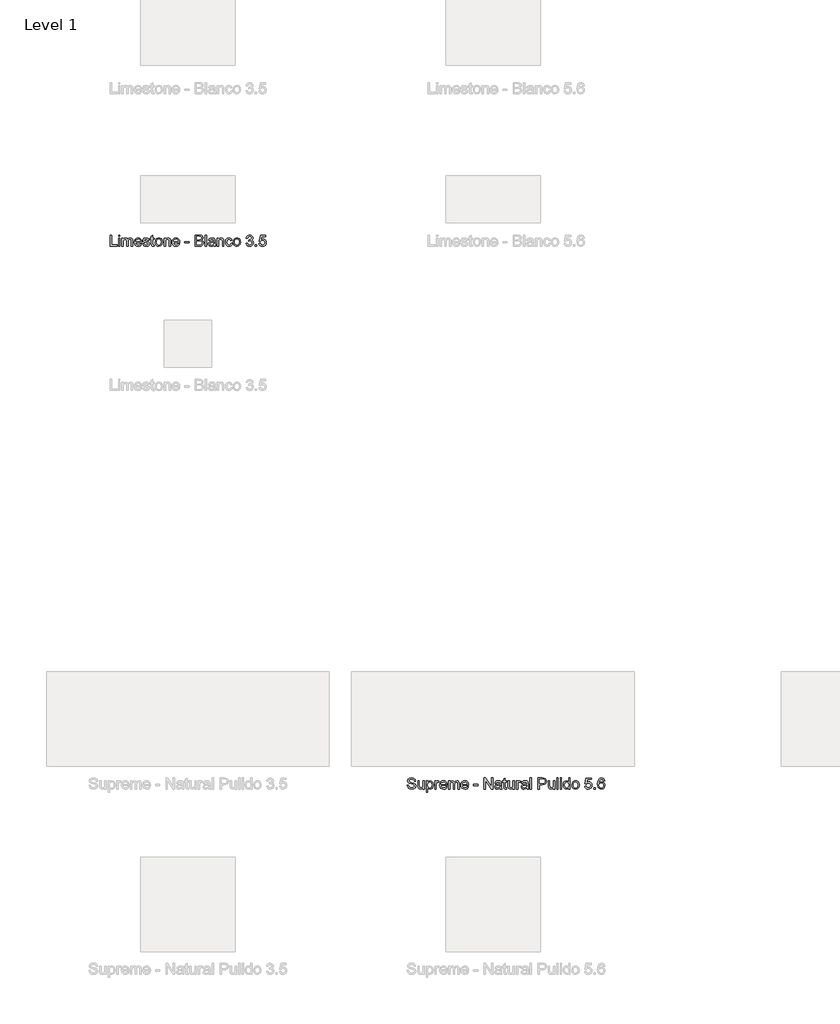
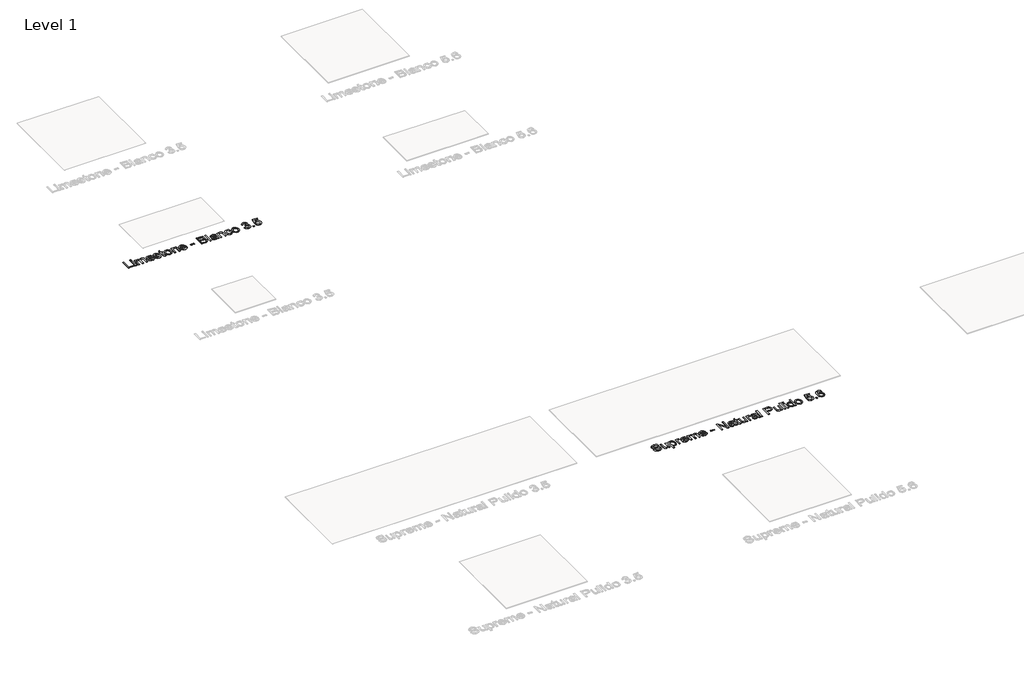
# One storey, part 64 of 80: 2 proxies.
"""IFC4 building model written with IfcOpenShell, lengths in millimetres."""

import ifcopenshell
import ifcopenshell.guid

model = None  # the IFC model being written
_history = None  # IfcOwnerHistory: only IFC2X3 demands one
_inside = {}  # id of a spatial element -> (the spatial element, [elements in it])
_under = {}  # id of a project, library or spatial element -> (it, [spatial elements below it])
_declared = {}  # id of a project -> (the project, [libraries it declares])
_typed = {}  # id of a type object -> (the type object, [elements of that type])
_made_of = {}  # id of a material, layer set ... -> (it, [elements and type objects made of it])


def new_model(schema):
    """Start an empty IFC model of exactly this schema.

    Asked for "IFC4X3", IfcOpenShell would pick the latest addendum, in which some entities
    have other attributes; the version numbers below select the first issue.
    IFC2X3 requires an IfcOwnerHistory on every rooted entity: one is made here for all.
    """
    global model, _history
    if schema == "IFC4X3":
        model = ifcopenshell.file(schema_version=(4, 3, 0, 0))
    else:
        model = ifcopenshell.file(schema=schema)
    _inside.clear()
    _under.clear()
    _declared.clear()
    _typed.clear()
    _made_of.clear()
    _history = None
    if model.schema == "IFC2X3":
        org = make("IfcOrganization", Name="unknown")
        user = make(
            "IfcPersonAndOrganization",
            ThePerson=make("IfcPerson", FamilyName="unknown"),
            TheOrganization=org,
        )
        app = make(
            "IfcApplication",
            ApplicationDeveloper=org,
            Version="unknown",
            ApplicationFullName="unknown",
            ApplicationIdentifier="unknown",
        )
        _history = make(
            "IfcOwnerHistory",
            OwningUser=user,
            OwningApplication=app,
            ChangeAction="ADDED",
            CreationDate=0,
        )
    return model


def make(cls, **values):
    """One entity of the class cls with the attributes given. An attribute that is None is left unset."""
    return model.create_entity(
        cls, **{name: value for name, value in values.items() if value is not None}
    )


def rooted(cls, **values):
    """An entity with a GlobalId (a new one), such as an element, a storey or a relation."""
    return make(cls, GlobalId=ifcopenshell.guid.new(), OwnerHistory=_history, **values)


def si_unit(unit_type, name, prefix=None):
    """IfcSIUnit, for example si_unit("LENGTHUNIT", "METRE", prefix="MILLI")."""
    return make("IfcSIUnit", UnitType=unit_type, Prefix=prefix, Name=name)


def assignment(units):
    """IfcUnitAssignment: the units of a project."""
    return None if units is None else make("IfcUnitAssignment", Units=units)


def point(xyz):
    """IfcCartesianPoint."""
    return None if xyz is None else make("IfcCartesianPoint", Coordinates=xyz)


def direction(xyz):
    """IfcDirection."""
    return None if xyz is None else make("IfcDirection", DirectionRatios=xyz)


def frame(location, z_axis=None, x_axis=None):
    """IfcAxis2Placement3D, a coordinate frame: its origin and axes. An axis left out is left unset."""
    return make(
        "IfcAxis2Placement3D",
        Location=point(location),
        Axis=direction(z_axis),
        RefDirection=direction(x_axis),
    )


def origin():
    """The frame at (0, 0, 0) with its axes left unset."""
    return frame((0.0, 0.0, 0.0))


def origin_with_axes():
    """The frame at (0, 0, 0) with the z axis (0, 0, 1) and the x axis (1, 0, 0) written out."""
    return frame((0.0, 0.0, 0.0), z_axis=(0.0, 0.0, 1.0), x_axis=(1.0, 0.0, 0.0))


def place(relative_to, where):
    """IfcLocalPlacement: puts the frame where relative to a parent placement (None: the world)."""
    return make(
        "IfcLocalPlacement", PlacementRelTo=relative_to, RelativePlacement=where
    )


def context(
    kind, dimensions, precision=None, world=None, true_north=None, identifier=None
):
    """IfcGeometricRepresentationContext, for example the 3D "Model" context."""
    return make(
        "IfcGeometricRepresentationContext",
        ContextIdentifier=identifier,
        ContextType=kind,
        CoordinateSpaceDimension=dimensions,
        Precision=precision,
        WorldCoordinateSystem=world,
        TrueNorth=true_north,
    )


def project(units=None, contexts=None):
    """IfcProject with its units and contexts."""
    return rooted(
        "IfcProject",
        Name="project",
        RepresentationContexts=contexts,
        UnitsInContext=assignment(units),
    )


def spatial(cls, under=None, at=None, **own):
    """A site, building, storey or space (cls), placed at a placement, below another one or the project."""
    s = rooted(cls, ObjectPlacement=at, **own)
    if under is not None:
        _under.setdefault(under.id(), (under, []))[1].append(s)
    return s


def polyline(points):
    """IfcPolyline through the points."""
    return make("IfcPolyline", Points=[point(p) for p in points])


def outline(outer, holes=None, kind="AREA"):
    """IfcArbitraryClosedProfileDef: a profile drawn as a closed curve; with holes, ...WithVoids."""
    if holes is None:
        return make("IfcArbitraryClosedProfileDef", ProfileType=kind, OuterCurve=outer)
    return make(
        "IfcArbitraryProfileDefWithVoids",
        ProfileType=kind,
        OuterCurve=outer,
        InnerCurves=holes,
    )


def extrude(swept, where, along, depth):
    """IfcExtrudedAreaSolid: the profile swept, set in the frame where, extruded along a direction by depth."""
    return make(
        "IfcExtrudedAreaSolid",
        SweptArea=swept,
        Position=where,
        ExtrudedDirection=direction(along),
        Depth=depth,
    )


def shape(context_of_items, identifier, shape_type, items):
    """IfcShapeRepresentation: the items that make up one representation, for example the "Body"."""
    return make(
        "IfcShapeRepresentation",
        ContextOfItems=context_of_items,
        RepresentationIdentifier=identifier,
        RepresentationType=shape_type,
        Items=items,
    )


def made_of(thing, what):
    """Note that an element or type object is made of a material, layer set ...; save() writes the relation."""
    if what is not None:
        _made_of.setdefault(what.id(), (what, []))[1].append(thing)
    return thing


def element(
    cls,
    number,
    at=None,
    inside=None,
    cuts=None,
    type_object=None,
    material=None,
    context=None,
    identifier="Body",
    shape_type=None,
    held_by="IfcProductDefinitionShape",
    body=None,
    shapes=None,
    **own,
):
    """One element of the class cls, such as IfcWall. Its Tag is "e" and its number.

    at: its placement. inside: the storey or other place that contains it. cuts: it is an
    opening in that element (IfcRelVoidsElement). A single representation is given by context,
    identifier, shape_type and body (its items); several are given by shapes. held_by: the class
    of the entity that holds the representations. save() writes the other relations.
    """
    e = rooted(cls, Tag="e%d" % number, ObjectPlacement=at, **own)
    if body is not None:
        shapes = [shape(context, identifier, shape_type, body)]
    if shapes is not None:
        e.Representation = make(held_by, Representations=shapes)
    if inside is not None:
        _inside.setdefault(inside.id(), (inside, []))[1].append(e)
    if cuts is not None:
        rooted(
            "IfcRelVoidsElement", RelatingBuildingElement=cuts, RelatedOpeningElement=e
        )
    if type_object is not None:
        _typed.setdefault(type_object.id(), (type_object, []))[1].append(e)
    return made_of(e, material)


def aggregate(whole, parts):
    """IfcRelAggregates: a whole, such as a stair, and the parts it consists of."""
    return rooted("IfcRelAggregates", RelatingObject=whole, RelatedObjects=parts)


def save(model, path):
    """Write the relations noted so far, then the file.

    IfcRelAggregates (storeys below a building ...), IfcRelContainedInSpatialStructure (elements
    in a storey), IfcRelDefinesByType, IfcRelAssociatesMaterial and IfcRelDeclares: one each for
    every whole, place, type object, material and project.
    """
    for whole, parts in _under.values():
        aggregate(whole, parts)
    for where, things in _inside.values():
        rooted(
            "IfcRelContainedInSpatialStructure",
            RelatedElements=things,
            RelatingStructure=where,
        )
    for kind, things in _typed.values():
        rooted("IfcRelDefinesByType", RelatedObjects=things, RelatingType=kind)
    for what, things in _made_of.values():
        rooted("IfcRelAssociatesMaterial", RelatedObjects=things, RelatingMaterial=what)
    for by, libraries in _declared.values():
        rooted("IfcRelDeclares", RelatingContext=by, RelatedDefinitions=libraries)
    model.write(path)


model = new_model("IFC4")

# Units and contexts
model_context = context("Model", 3, world=origin())
ifc_project = project(units=[si_unit("LENGTHUNIT", "METRE", prefix="MILLI")], contexts=[model_context])

# Site, building, storey
site = spatial("IfcSite", under=ifc_project)
building = spatial("IfcBuilding", under=site)
storey = spatial("IfcBuildingStorey", under=building, Name="Level 1", Elevation=0.0)

# Proxies
placement = place(None, origin())
element("IfcBuildingElementProxy", 1, Name="24\" Arial", ObjectType="24\" Arial", at=placement, inside=storey, context=model_context, shape_type="SweptSolid", body=[
    extrude(outline(polyline([(7862.4623536, 1389.3439467), (7877.2315844, 1389.3439467), (7881.9911998, 1374.5602928), (7893.6161998, 1365.214139), (7911.3277383, 1361.651639), (7926.7604306, 1364.3487544), (7936.7267767, 1371.7622159), (7940.0008152, 1381.6708697), (7937.5488921, 1390.8872159), (7927.5104306, 1397.5939467), (7906.0056229, 1403.2333697), (7882.8565844, 1410.5170236), (7870.2940844, 1421.5074082), (7866.1546613, 1436.1901005), (7871.2748536, 1452.9064467), (7886.2315844, 1464.7045236), (7908.1258152, 1468.728562), (7931.4911998, 1464.5170236), (7947.0681229, 1452.1420236), (7952.9238921, 1433.651639), (7938.1546613, 1433.651639), (7935.4431229, 1442.464139), (7929.7892767, 1448.8247159), (7920.9551421, 1452.6756774), (7908.7027383, 1453.9593313), (7896.1618729, 1452.6901005), (7887.5585075, 1448.8824082), (7882.5825459, 1443.2790428), (7880.9238921, 1436.6227928), (7885.6258152, 1426.3824082), (7909.7411998, 1418.1324082), (7935.8758152, 1410.7189467), (7950.1690844, 1398.7477928), (7954.7700459, 1382.0458697), (7949.4767767, 1364.3776005), (7934.2460075, 1351.4833697), (7911.9046613, 1346.8824082), (7885.5248536, 1351.8439467), (7876.0380748, 1358.0602928), (7868.8373536, 1366.7862544), (7862.4623536, 1389.3439467)])), origin_with_axes(), (0.0, 0.0, 1.0), 2.0),
    extrude(outline(polyline([(8030.4623536, 1348.728562), (8030.4623536, 1363.6420236), (8018.8950459, 1351.072312), (8003.8085075, 1346.8824082), (7989.9190844, 1349.8247159), (7980.3421613, 1357.2093313), (7975.9431229, 1368.0843313), (7975.0777383, 1381.8151005), (7975.0777383, 1435.4977928), (7989.846969, 1435.4977928), (7989.846969, 1388.7670236), (7990.7411998, 1373.7093313), (7996.5825459, 1364.8679851), (8007.5873536, 1361.651639), (8019.9190844, 1364.9401005), (8028.0681229, 1373.8968313), (8030.4623536, 1390.353562), (8030.4623536, 1435.4977928), (8045.2315844, 1435.4977928), (8045.2315844, 1348.728562), (8030.4623536, 1348.728562)])), origin_with_axes(), (0.0, 0.0, 1.0), 2.0),
    extrude(outline(polyline([(8065.5392767, 1315.4977928), (8065.5392767, 1435.4977928), (8080.3085075, 1435.4977928), (8080.3085075, 1421.0170236), (8090.5200459, 1433.2622159), (8104.3085075, 1437.3439467), (8123.0296613, 1431.6324082), (8135.2604306, 1415.5362544), (8139.3854306, 1392.776639), (8134.7267767, 1368.8487544), (8129.0152383, 1359.4593313), (8121.1979306, 1352.5506774), (8102.5200459, 1346.8824082), (8089.6690844, 1350.6756774), (8080.3085075, 1360.2670236), (8080.3085075, 1315.4977928), (8065.5392767, 1315.4977928)]), holes=[polyline([(8080.3085075, 1391.4208697), (8081.9058633, 1378.1804851), (8086.6979306, 1368.9208697), (8093.768844, 1363.4689467), (8102.2027383, 1361.651639), (8110.7736517, 1363.5338505), (8118.0248536, 1369.1804851), (8122.9683633, 1378.7790428), (8124.6161998, 1392.5170236), (8123.0080267, 1405.6852928), (8118.1835075, 1415.0747159), (8111.1234113, 1420.6997159), (8102.8085075, 1422.5747159), (8094.4611517, 1420.5807255), (8087.1306229, 1414.5987544), (8082.0140363, 1404.8163024), (8080.3085075, 1391.4208697)])]), origin_with_axes(), (0.0, 0.0, 1.0), 2.0),
    extrude(outline(polyline([(8156.0008152, 1348.728562), (8156.0008152, 1435.4977928), (8168.9238921, 1435.4977928), (8168.9238921, 1422.6612544), (8178.096969, 1434.4881774), (8187.3277383, 1437.3439467), (8202.1546613, 1432.7862544), (8197.221969, 1419.5458697), (8186.8373536, 1422.5747159), (8178.4863921, 1419.6612544), (8173.1642767, 1411.5843313), (8170.7700459, 1394.3343313), (8170.7700459, 1348.728562), (8156.0008152, 1348.728562)])), origin_with_axes(), (0.0, 0.0, 1.0), 2.0),
    extrude(outline(polyline([(8272.1354306, 1374.5747159), (8286.6161998, 1372.728562), (8281.3986517, 1361.8175044), (8273.0729306, 1353.6612544), (8261.8265363, 1348.5771197), (8247.846969, 1346.8824082), (8230.5176421, 1349.806687), (8217.1835075, 1358.5795236), (8208.6811036, 1372.6312063), (8205.846969, 1391.3920236), (8208.7099498, 1410.7838505), (8217.2988921, 1425.2862544), (8230.4527383, 1434.3295236), (8247.0104306, 1437.3439467), (8263.0524979, 1434.3367351), (8275.8710075, 1425.3151005), (8284.2760556, 1410.8415428), (8287.0777383, 1391.478562), (8286.9911998, 1387.4977928), (8220.6161998, 1387.4977928), (8223.1726902, 1376.4425044), (8229.1113921, 1368.3151005), (8237.6823056, 1363.3175044), (8248.1354306, 1361.651639), (8262.6161998, 1364.7381774), (8272.1354306, 1374.5747159)]), holes=[polyline([(8220.6161998, 1402.2670236), (8272.3085075, 1402.2670236), (8266.3950459, 1415.651639), (8257.784469, 1420.8439467), (8246.9527383, 1422.5747159), (8228.7652383, 1417.0506774), (8223.0428825, 1410.5927447), (8220.6161998, 1402.2670236)])]), origin_with_axes(), (0.0, 0.0, 1.0), 2.0),
    extrude(outline(polyline([(8301.846969, 1348.728562), (8301.846969, 1435.4977928), (8316.6161998, 1435.4977928), (8316.6161998, 1421.2189467), (8326.7700459, 1432.916062), (8341.221969, 1437.3439467), (8356.0200459, 1432.8295236), (8364.1546613, 1420.1804851), (8375.6786998, 1433.0530813), (8390.2315844, 1437.3439467), (8401.3337479, 1435.5590909), (8409.5440844, 1430.2045236), (8414.6174017, 1421.136014), (8416.3085075, 1408.2093313), (8416.3085075, 1348.728562), (8401.5392767, 1348.728562), (8401.5392767, 1401.8631774), (8400.1690844, 1414.1949082), (8395.2075459, 1420.2670236), (8386.7700459, 1422.5747159), (8378.768844, 1421.0963505), (8372.2460075, 1416.6612544), (8367.9082671, 1408.9665428), (8366.4623536, 1397.7093313), (8366.4623536, 1348.728562), (8351.6931229, 1348.728562), (8351.6931229, 1403.5074082), (8348.2748536, 1417.8151005), (8337.0681229, 1422.5747159), (8326.1354306, 1419.401639), (8318.8661998, 1410.1131774), (8316.6161998, 1392.4881774), (8316.6161998, 1348.728562), (8301.846969, 1348.728562)])), origin_with_axes(), (0.0, 0.0, 1.0), 2.0),
    extrude(outline(polyline([(8499.2123536, 1374.5747159), (8513.6931229, 1372.728562), (8508.4755748, 1361.8175044), (8500.1498536, 1353.6612544), (8488.9034594, 1348.5771197), (8474.9238921, 1346.8824082), (8457.5945652, 1349.806687), (8444.2604306, 1358.5795236), (8435.7580267, 1372.6312063), (8432.9238921, 1391.3920236), (8435.7868729, 1410.7838505), (8444.3758152, 1425.2862544), (8457.5296613, 1434.3295236), (8474.0873536, 1437.3439467), (8490.1294209, 1434.3367351), (8502.9479306, 1425.3151005), (8511.3529786, 1410.8415428), (8514.1546613, 1391.478562), (8514.0681229, 1387.4977928), (8447.6931229, 1387.4977928), (8450.2496133, 1376.4425044), (8456.1883152, 1368.3151005), (8464.7592286, 1363.3175044), (8475.2123536, 1361.651639), (8489.6931229, 1364.7381774), (8499.2123536, 1374.5747159)]), holes=[polyline([(8447.6931229, 1402.2670236), (8499.3854306, 1402.2670236), (8493.471969, 1415.651639), (8484.8613921, 1420.8439467), (8474.0296613, 1422.5747159), (8455.8421613, 1417.0506774), (8450.1198056, 1410.5927447), (8447.6931229, 1402.2670236)])]), origin_with_axes(), (0.0, 0.0, 1.0), 2.0),
    extrude(outline(polyline([(8567.6931229, 1383.8054851), (8567.6931229, 1398.5747159), (8613.846969, 1398.5747159), (8613.846969, 1383.8054851), (8567.6931229, 1383.8054851)])), origin_with_axes(), (0.0, 0.0, 1.0), 2.0),
    extrude(outline(polyline([(8678.4623536, 1348.728562), (8678.4623536, 1466.8824082), (8694.2700459, 1466.8824082), (8756.0008152, 1373.276639), (8756.0008152, 1466.8824082), (8770.7700459, 1466.8824082), (8770.7700459, 1348.728562), (8754.9623536, 1348.728562), (8693.2315844, 1442.3631774), (8693.2315844, 1348.728562), (8678.4623536, 1348.728562)])), origin_with_axes(), (0.0, 0.0, 1.0), 2.0),
    extrude(outline(polyline([(8850.1546613, 1359.8054851), (8835.8325459, 1349.7958697), (8820.0104306, 1346.8824082), (8807.6678825, 1348.634812), (8798.5633152, 1353.8920236), (8792.9491325, 1361.8751967), (8791.0777383, 1371.8054851), (8793.9046613, 1383.4881774), (8801.3325459, 1391.9689467), (8811.6738921, 1396.8151005), (8824.4527383, 1399.0362544), (8850.0681229, 1404.1131774), (8850.1546613, 1407.401639), (8846.0873536, 1418.3054851), (8829.7604306, 1422.5747159), (8814.8181229, 1419.7333697), (8807.6931229, 1409.651639), (8792.9238921, 1411.4977928), (8799.3133152, 1425.9208697), (8812.1786998, 1434.3727928), (8831.6642767, 1437.3439467), (8849.5633152, 1434.7189467), (8859.6738921, 1428.1276005), (8864.2027383, 1418.103562), (8864.9238921, 1405.1804851), (8864.9238921, 1386.8054851), (8865.6738921, 1361.1468313), (8868.6161998, 1348.728562), (8853.846969, 1348.728562), (8850.1546613, 1359.8054851)]), holes=[polyline([(8850.1546613, 1389.3439467), (8826.3277383, 1384.8151005), (8813.6210075, 1382.4208697), (8807.8661998, 1378.526639), (8805.846969, 1372.8439467), (8810.2460075, 1364.853562), (8823.1546613, 1361.651639), (8838.096969, 1365.1852928), (8847.7315844, 1373.7381774), (8850.0681229, 1385.1612544), (8850.1546613, 1389.3439467)])]), origin_with_axes(), (0.0, 0.0, 1.0), 2.0),
    extrude(outline(polyline([(8916.6161998, 1361.0458697), (8918.4623536, 1348.2958697), (8907.4142767, 1346.8824082), (8895.0392767, 1349.3343313), (8888.8661998, 1355.7670236), (8887.0777383, 1372.526639), (8887.0777383, 1420.728562), (8876.0008152, 1420.728562), (8876.0008152, 1435.4977928), (8887.0777383, 1435.4977928), (8887.0777383, 1456.5843313), (8901.846969, 1465.2670236), (8901.846969, 1435.4977928), (8916.6161998, 1435.4977928), (8916.6161998, 1420.728562), (8901.846969, 1420.728562), (8901.846969, 1372.9593313), (8902.6258152, 1365.3439467), (8905.1498536, 1362.6468313), (8910.1835075, 1361.651639), (8916.6161998, 1361.0458697)])), origin_with_axes(), (0.0, 0.0, 1.0), 2.0),
    extrude(outline(polyline([(8986.7700459, 1348.728562), (8986.7700459, 1363.6420236), (8975.2027383, 1351.072312), (8960.1161998, 1346.8824082), (8946.2267767, 1349.8247159), (8936.6498536, 1357.2093313), (8932.2508152, 1368.0843313), (8931.3854306, 1381.8151005), (8931.3854306, 1435.4977928), (8946.1546613, 1435.4977928), (8946.1546613, 1388.7670236), (8947.0488921, 1373.7093313), (8952.8902383, 1364.8679851), (8963.8950459, 1361.651639), (8976.2267767, 1364.9401005), (8984.3758152, 1373.8968313), (8986.7700459, 1390.353562), (8986.7700459, 1435.4977928), (9001.5392767, 1435.4977928), (9001.5392767, 1348.728562), (8986.7700459, 1348.728562)])), origin_with_axes(), (0.0, 0.0, 1.0), 2.0),
    extrude(outline(polyline([(9021.846969, 1348.728562), (9021.846969, 1435.4977928), (9034.7700459, 1435.4977928), (9034.7700459, 1422.6612544), (9043.9431229, 1434.4881774), (9053.1738921, 1437.3439467), (9068.0008152, 1432.7862544), (9063.0681229, 1419.5458697), (9052.6835075, 1422.5747159), (9044.3325459, 1419.6612544), (9039.0104306, 1411.5843313), (9036.6161998, 1394.3343313), (9036.6161998, 1348.728562), (9021.846969, 1348.728562)])), origin_with_axes(), (0.0, 0.0, 1.0), 2.0),
    extrude(outline(polyline([(9132.6161998, 1359.8054851), (9118.2940844, 1349.7958697), (9102.471969, 1346.8824082), (9090.1294209, 1348.634812), (9081.0248536, 1353.8920236), (9075.4106709, 1361.8751967), (9073.5392767, 1371.8054851), (9076.3661998, 1383.4881774), (9083.7940844, 1391.9689467), (9094.1354306, 1396.8151005), (9106.9142767, 1399.0362544), (9132.5296613, 1404.1131774), (9132.6161998, 1407.401639), (9128.5488921, 1418.3054851), (9112.221969, 1422.5747159), (9097.2796613, 1419.7333697), (9090.1546613, 1409.651639), (9075.3854306, 1411.4977928), (9081.7748536, 1425.9208697), (9094.6402383, 1434.3727928), (9114.1258152, 1437.3439467), (9132.0248536, 1434.7189467), (9142.1354306, 1428.1276005), (9146.6642767, 1418.103562), (9147.3854306, 1405.1804851), (9147.3854306, 1386.8054851), (9148.1354306, 1361.1468313), (9151.0777383, 1348.728562), (9136.3085075, 1348.728562), (9132.6161998, 1359.8054851)]), holes=[polyline([(9132.6161998, 1389.3439467), (9108.7892767, 1384.8151005), (9096.0825459, 1382.4208697), (9090.3277383, 1378.526639), (9088.3085075, 1372.8439467), (9092.7075459, 1364.853562), (9105.6161998, 1361.651639), (9120.5585075, 1365.1852928), (9130.1931229, 1373.7381774), (9132.5296613, 1385.1612544), (9132.6161998, 1389.3439467)])]), origin_with_axes(), (0.0, 0.0, 1.0), 2.0),
    extrude(outline(polyline([(9167.6931229, 1348.728562), (9167.6931229, 1466.8824082), (9182.4623536, 1466.8824082), (9182.4623536, 1348.728562), (9167.6931229, 1348.728562)])), origin_with_axes(), (0.0, 0.0, 1.0), 2.0),
    extrude(outline(polyline([(9252.6161998, 1348.728562), (9252.6161998, 1466.8824082), (9296.4046613, 1466.8824082), (9314.0585075, 1465.7574082), (9328.409469, 1460.2333697), (9337.7123536, 1448.8102928), (9341.2315844, 1432.6997159), (9338.8553825, 1418.7742351), (9331.7267767, 1407.1708697), (9318.3962479, 1399.339139), (9297.4142767, 1396.728562), (9267.3854306, 1396.728562), (9267.3854306, 1348.728562), (9252.6161998, 1348.728562)]), holes=[polyline([(9267.3854306, 1411.4977928), (9298.2796613, 1411.4977928), (9311.3758152, 1412.853562), (9320.0296613, 1416.9208697), (9324.8541806, 1423.447312), (9326.4623536, 1432.1804851), (9322.6690844, 1444.4112544), (9312.7027383, 1451.103562), (9297.9335075, 1452.1131774), (9267.3854306, 1452.1131774), (9267.3854306, 1411.4977928)])]), origin_with_axes(), (0.0, 0.0, 1.0), 2.0),
    extrude(outline(polyline([(9415.0777383, 1348.728562), (9415.0777383, 1363.6420236), (9403.5104306, 1351.072312), (9388.4238921, 1346.8824082), (9374.534469, 1349.8247159), (9364.9575459, 1357.2093313), (9360.5585075, 1368.0843313), (9359.6931229, 1381.8151005), (9359.6931229, 1435.4977928), (9374.4623536, 1435.4977928), (9374.4623536, 1388.7670236), (9375.3565844, 1373.7093313), (9381.1979306, 1364.8679851), (9392.2027383, 1361.651639), (9404.534469, 1364.9401005), (9412.6835075, 1373.8968313), (9415.0777383, 1390.353562), (9415.0777383, 1435.4977928), (9429.846969, 1435.4977928), (9429.846969, 1348.728562), (9415.0777383, 1348.728562)])), origin_with_axes(), (0.0, 0.0, 1.0), 2.0),
    extrude(outline(polyline([(9450.1546613, 1348.728562), (9450.1546613, 1466.8824082), (9464.9238921, 1466.8824082), (9464.9238921, 1348.728562), (9450.1546613, 1348.728562)])), origin_with_axes(), (0.0, 0.0, 1.0), 2.0),
    extrude(outline(polyline([(9487.0777383, 1452.1131774), (9487.0777383, 1466.8824082), (9501.846969, 1466.8824082), (9501.846969, 1452.1131774), (9487.0777383, 1452.1131774)])), origin_with_axes(), (0.0, 0.0, 1.0), 2.0),
    extrude(outline(polyline([(9487.0777383, 1348.728562), (9487.0777383, 1435.4977928), (9501.846969, 1435.4977928), (9501.846969, 1348.728562), (9487.0777383, 1348.728562)])), origin_with_axes(), (0.0, 0.0, 1.0), 2.0),
    extrude(outline(polyline([(9577.5392767, 1348.728562), (9577.5392767, 1362.6612544), (9567.7676421, 1350.8271197), (9554.2604306, 1346.8824082), (9535.971969, 1352.5939467), (9523.0488921, 1368.5314467), (9518.4623536, 1392.026639), (9522.6883152, 1415.5362544), (9527.9671613, 1424.8607736), (9535.3517767, 1431.7189467), (9554.2027383, 1437.3439467), (9567.8181229, 1433.3199082), (9577.5392767, 1422.8631774), (9577.5392767, 1466.8824082), (9592.3085075, 1466.8824082), (9592.3085075, 1348.728562), (9577.5392767, 1348.728562)]), holes=[polyline([(9533.2315844, 1392.0843313), (9534.8974498, 1378.7249563), (9539.8950459, 1369.2237544), (9547.1570652, 1363.5446678), (9555.6161998, 1361.651639), (9564.0717286, 1363.4581294), (9571.1498536, 1368.8776005), (9575.9419209, 1378.011014), (9577.5392767, 1390.9593313), (9575.9130748, 1405.1155813), (9571.034469, 1414.9304851), (9563.7760556, 1420.6636582), (9555.0104306, 1422.5747159), (9546.4647575, 1420.7393794), (9539.4623536, 1415.2333697), (9534.7892767, 1405.775437), (9533.2315844, 1392.0843313)])]), origin_with_axes(), (0.0, 0.0, 1.0), 2.0),
    extrude(outline(polyline([(9610.7700459, 1392.1131774), (9613.9647575, 1413.0338505), (9623.5488921, 1427.7381774), (9635.3902383, 1434.9425044), (9649.5681229, 1437.3439467), (9665.0837479, 1434.4196678), (9677.4767767, 1425.6468313), (9685.6005748, 1411.7177447), (9688.3085075, 1393.3247159), (9683.5200459, 1367.0458697), (9669.5729306, 1352.1756774), (9649.5681229, 1346.8824082), (9633.8649979, 1349.7958697), (9621.4863921, 1358.5362544), (9613.4491325, 1372.7574082), (9610.7700459, 1392.1131774)]), holes=[polyline([(9625.5392767, 1392.1420236), (9627.2484113, 1378.775437), (9632.3758152, 1369.2526005), (9640.0921613, 1363.5518794), (9649.5681229, 1361.651639), (9659.0008152, 1363.5626967), (9666.7027383, 1369.2958697), (9671.8301421, 1378.9449082), (9673.5392767, 1392.603562), (9671.8193248, 1405.5807255), (9666.659469, 1414.9737544), (9658.9467286, 1420.6744755), (9649.5681229, 1422.5747159), (9640.0921613, 1420.681687), (9632.3758152, 1415.0026005), (9627.2484113, 1405.5013986), (9625.5392767, 1392.1420236)])]), origin_with_axes(), (0.0, 0.0, 1.0), 2.0),
    extrude(outline(polyline([(9747.3854306, 1380.1131774), (9762.1546613, 1381.9593313), (9769.596969, 1366.7429851), (9785.0296613, 1361.651639), (9795.6161998, 1363.4220717), (9803.5488921, 1368.7333697), (9808.503219, 1376.9725524), (9810.1546613, 1387.526639), (9808.6077863, 1397.464139), (9803.9671613, 1405.0651005), (9796.1967286, 1409.8896197), (9785.2604306, 1411.4977928), (9772.2940844, 1408.9304851), (9764.0008152, 1402.2670236), (9749.2315844, 1404.1131774), (9762.1546613, 1465.0362544), (9819.3854306, 1465.0362544), (9819.3854306, 1450.2670236), (9774.096969, 1450.2670236), (9767.7796613, 1417.728562), (9778.3301421, 1424.1324082), (9789.3854306, 1426.2670236), (9803.1847094, 1423.620389), (9814.6402383, 1415.6804851), (9822.3529786, 1403.5795236), (9824.9238921, 1388.4497159), (9822.6089883, 1373.6804851), (9815.6642767, 1361.0458697), (9802.3661998, 1350.4232736), (9784.971969, 1346.8824082), (9770.4659594, 1349.1576486), (9758.909469, 1355.9833697), (9750.987594, 1366.5663024), (9747.3854306, 1380.1131774)])), origin_with_axes(), (0.0, 0.0, 1.0), 2.0),
    extrude(outline(polyline([(9845.2315844, 1348.728562), (9845.2315844, 1363.4977928), (9860.0008152, 1363.4977928), (9860.0008152, 1348.728562), (9845.2315844, 1348.728562)])), origin_with_axes(), (0.0, 0.0, 1.0), 2.0),
    extrude(outline(polyline([(9959.6931229, 1435.4977928), (9944.9238921, 1433.651639), (9939.3277383, 1445.9689467), (9932.628219, 1450.5771197), (9924.5296613, 1452.1131774), (9911.2027383, 1448.5362544), (9901.1210075, 1435.1083697), (9896.9238921, 1408.7862544), (9909.9479306, 1420.5699082), (9926.0873536, 1424.4208697), (9939.7315844, 1421.7886582), (9951.1835075, 1413.8920236), (9958.9503344, 1401.8271197), (9961.5392767, 1386.6901005), (9956.6642767, 1366.3102928), (9943.2508152, 1351.8872159), (9923.8950459, 1346.8824082), (9907.1390363, 1350.1997159), (9893.7940844, 1360.151639), (9885.0645171, 1377.7189467), (9882.1546613, 1403.8824082), (9885.3854306, 1433.2982736), (9895.0777383, 1453.4112544), (9908.3109113, 1463.5146197), (9925.4527383, 1466.8824082), (9938.4118729, 1464.7982736), (9948.7892767, 1458.5458697), (9956.0585075, 1448.6155813), (9959.6931229, 1435.4977928)]), holes=[polyline([(9896.9238921, 1386.9208697), (9900.3421613, 1374.1276005), (9909.4286998, 1364.839139), (9922.7411998, 1361.651639), (9932.487594, 1363.3030813), (9940.1498536, 1368.2574082), (9945.1149979, 1376.0458697), (9946.7700459, 1386.1997159), (9945.1366325, 1395.9461101), (9940.2363921, 1403.3776005), (9932.4443248, 1408.0831294), (9922.1354306, 1409.651639), (9912.4034594, 1408.0831294), (9904.2652383, 1403.3776005), (9898.7592286, 1396.1263986), (9896.9238921, 1386.9208697)])]), origin_with_axes(), (0.0, 0.0, 1.0), 2.0),
])
element("IfcBuildingElementProxy", 2, Name="24\" Arial", ObjectType="24\" Arial", at=placement, inside=storey, context=model_context, shape_type="SweptSolid", body=[
    extrude(outline(polyline([(4709.2315844, 7106.868207), (4709.2315844, 7225.0220532), (4724.0008152, 7225.0220532), (4724.0008152, 7121.6374378), (4783.0777383, 7121.6374378), (4783.0777383, 7106.868207), (4709.2315844, 7106.868207)])), origin_with_axes(), (0.0, 0.0, 1.0), 2.0),
    extrude(outline(polyline([(4797.846969, 7210.2528224), (4797.846969, 7225.0220532), (4812.6161998, 7225.0220532), (4812.6161998, 7210.2528224), (4797.846969, 7210.2528224)])), origin_with_axes(), (0.0, 0.0, 1.0), 2.0),
    extrude(outline(polyline([(4797.846969, 7106.868207), (4797.846969, 7193.6374378), (4812.6161998, 7193.6374378), (4812.6161998, 7106.868207), (4797.846969, 7106.868207)])), origin_with_axes(), (0.0, 0.0, 1.0), 2.0),
    extrude(outline(polyline([(4834.7700459, 7106.868207), (4834.7700459, 7193.6374378), (4849.5392767, 7193.6374378), (4849.5392767, 7179.3585916), (4859.6931229, 7191.055707), (4874.1450459, 7195.4835916), (4888.9431229, 7190.9691686), (4897.0777383, 7178.3201301), (4908.6017767, 7191.1927263), (4923.1546613, 7195.4835916), (4934.2568248, 7193.6987359), (4942.4671613, 7188.3441686), (4947.5404786, 7179.275659), (4949.2315844, 7166.3489763), (4949.2315844, 7106.868207), (4934.4623536, 7106.868207), (4934.4623536, 7160.0028224), (4933.0921613, 7172.3345532), (4928.1306229, 7178.4066686), (4919.6931229, 7180.7143609), (4911.6919209, 7179.2359955), (4905.1690844, 7174.8008993), (4900.831344, 7167.1061878), (4899.3854306, 7155.8489763), (4899.3854306, 7106.868207), (4884.6161998, 7106.868207), (4884.6161998, 7161.6470532), (4881.1979306, 7175.9547455), (4869.9911998, 7180.7143609), (4859.0585075, 7177.541284), (4851.7892767, 7168.2528224), (4849.5392767, 7150.6278224), (4849.5392767, 7106.868207), (4834.7700459, 7106.868207)])), origin_with_axes(), (0.0, 0.0, 1.0), 2.0),
    extrude(outline(polyline([(5032.1354306, 7132.7143609), (5046.6161998, 7130.868207), (5041.3986517, 7119.9571493), (5033.0729306, 7111.8008993), (5021.8265363, 7106.7167647), (5007.846969, 7105.0220532), (4990.5176421, 7107.946332), (4977.1835075, 7116.7191686), (4968.6811036, 7130.7708513), (4965.846969, 7149.5316686), (4968.7099498, 7168.9234955), (4977.2988921, 7183.4258993), (4990.4527383, 7192.4691686), (5007.0104306, 7195.4835916), (5023.0524979, 7192.4763801), (5035.8710075, 7183.4547455), (5044.2760556, 7168.9811878), (5047.0777383, 7149.618207), (5046.9911998, 7145.6374378), (4980.6161998, 7145.6374378), (4983.1726902, 7134.5821493), (4989.1113921, 7126.4547455), (4997.6823056, 7121.4571493), (5008.1354306, 7119.791284), (5022.6161998, 7122.8778224), (5032.1354306, 7132.7143609)]), holes=[polyline([(4980.6161998, 7160.4066686), (5032.3085075, 7160.4066686), (5026.3950459, 7173.791284), (5017.784469, 7178.9835916), (5006.9527383, 7180.7143609), (4988.7652383, 7175.1903224), (4983.0428825, 7168.7323897), (4980.6161998, 7160.4066686)])]), origin_with_axes(), (0.0, 0.0, 1.0), 2.0),
    extrude(outline(polyline([(5056.3085075, 7132.7143609), (5071.0777383, 7134.5605147), (5077.9142767, 7123.5989763), (5093.5777383, 7119.791284), (5108.6354306, 7123.2816686), (5113.5392767, 7131.4739763), (5108.6065844, 7138.1085916), (5093.4046613, 7142.3201301), (5071.1642767, 7149.5460916), (5061.4575459, 7157.9835916), (5058.1546613, 7169.8970532), (5060.8085075, 7180.9018609), (5068.0488921, 7189.3105147), (5077.4383152, 7193.680707), (5090.1450459, 7195.4835916), (5108.1161998, 7192.5845532), (5119.5392767, 7184.7383993), (5124.6161998, 7171.4835916), (5109.846969, 7169.6374378), (5104.2940844, 7177.7864763), (5091.2988921, 7180.7143609), (5077.1642767, 7177.916284), (5072.9238921, 7171.3970532), (5074.6835075, 7167.0989763), (5080.1931229, 7163.8393609), (5092.9142767, 7160.6951301), (5114.5921613, 7153.743207), (5124.659469, 7145.868207), (5128.3085075, 7133.0316686), (5124.0248536, 7118.8970532), (5111.6642767, 7108.6422455), (5093.3758152, 7105.0220532), (5078.4839883, 7106.7672455), (5067.6161998, 7112.0028224), (5060.3613921, 7120.6710916), (5056.3085075, 7132.7143609)])), origin_with_axes(), (0.0, 0.0, 1.0), 2.0),
    extrude(outline(polyline([(5176.3085075, 7119.1855147), (5178.1546613, 7106.4355147), (5167.1065844, 7105.0220532), (5154.7315844, 7107.4739763), (5148.5585075, 7113.9066686), (5146.7700459, 7130.666284), (5146.7700459, 7178.868207), (5135.6931229, 7178.868207), (5135.6931229, 7193.6374378), (5146.7700459, 7193.6374378), (5146.7700459, 7214.7239763), (5161.5392767, 7223.4066686), (5161.5392767, 7193.6374378), (5176.3085075, 7193.6374378), (5176.3085075, 7178.868207), (5161.5392767, 7178.868207), (5161.5392767, 7131.0989763), (5162.3181229, 7123.4835916), (5164.8421613, 7120.7864763), (5169.8758152, 7119.791284), (5176.3085075, 7119.1855147)])), origin_with_axes(), (0.0, 0.0, 1.0), 2.0),
    extrude(outline(polyline([(5187.3854306, 7150.2528224), (5190.5801421, 7171.1734955), (5200.1642767, 7185.8778224), (5212.0056229, 7193.0821493), (5226.1835075, 7195.4835916), (5241.6991325, 7192.5593128), (5254.0921613, 7183.7864763), (5262.2159594, 7169.8573897), (5264.9238921, 7151.4643609), (5260.1354306, 7125.1855147), (5246.1883152, 7110.3153224), (5226.1835075, 7105.0220532), (5210.4803825, 7107.9355147), (5198.1017767, 7116.6758993), (5190.0645171, 7130.8970532), (5187.3854306, 7150.2528224)]), holes=[polyline([(5202.1546613, 7150.2816686), (5203.8637959, 7136.915082), (5208.9911998, 7127.3922455), (5216.7075459, 7121.6915243), (5226.1835075, 7119.791284), (5235.6161998, 7121.7023416), (5243.3181229, 7127.4355147), (5248.4455267, 7137.0845532), (5250.1546613, 7150.743207), (5248.4347094, 7163.7203705), (5243.2748536, 7173.1133993), (5235.5621133, 7178.8141205), (5226.1835075, 7180.7143609), (5216.7075459, 7178.821332), (5208.9911998, 7173.1422455), (5203.8637959, 7163.6410436), (5202.1546613, 7150.2816686)])]), origin_with_axes(), (0.0, 0.0, 1.0), 2.0),
    extrude(outline(polyline([(5281.5392767, 7106.868207), (5281.5392767, 7193.6374378), (5296.3085075, 7193.6374378), (5296.3085075, 7181.5220532), (5307.6017767, 7191.993207), (5323.0200459, 7195.4835916), (5336.9671613, 7192.6710916), (5346.4863921, 7185.2864763), (5350.9142767, 7174.4258993), (5351.6931229, 7160.1470532), (5351.6931229, 7106.868207), (5336.9238921, 7106.868207), (5336.9238921, 7158.1566686), (5335.221969, 7171.2239763), (5329.2075459, 7178.1326301), (5319.0681229, 7180.7143609), (5303.0440844, 7174.916284), (5297.9924017, 7166.5148416), (5296.3085075, 7152.9066686), (5296.3085075, 7106.868207), (5281.5392767, 7106.868207)])), origin_with_axes(), (0.0, 0.0, 1.0), 2.0),
    extrude(outline(polyline([(5432.7508152, 7132.7143609), (5447.2315844, 7130.868207), (5442.0140363, 7119.9571493), (5433.6883152, 7111.8008993), (5422.4419209, 7106.7167647), (5408.4623536, 7105.0220532), (5391.1330267, 7107.946332), (5377.7988921, 7116.7191686), (5369.2964883, 7130.7708513), (5366.4623536, 7149.5316686), (5369.3253344, 7168.9234955), (5377.9142767, 7183.4258993), (5391.0681229, 7192.4691686), (5407.6258152, 7195.4835916), (5423.6678825, 7192.4763801), (5436.4863921, 7183.4547455), (5444.8914402, 7168.9811878), (5447.6931229, 7149.618207), (5447.6065844, 7145.6374378), (5381.2315844, 7145.6374378), (5383.7880748, 7134.5821493), (5389.7267767, 7126.4547455), (5398.2976902, 7121.4571493), (5408.7508152, 7119.791284), (5423.2315844, 7122.8778224), (5432.7508152, 7132.7143609)]), holes=[polyline([(5381.2315844, 7160.4066686), (5432.9238921, 7160.4066686), (5427.0104306, 7173.791284), (5418.3998536, 7178.9835916), (5407.5681229, 7180.7143609), (5389.3806229, 7175.1903224), (5383.6582671, 7168.7323897), (5381.2315844, 7160.4066686)])]), origin_with_axes(), (0.0, 0.0, 1.0), 2.0),
    extrude(outline(polyline([(5501.2315844, 7141.9451301), (5501.2315844, 7156.7143609), (5547.3854306, 7156.7143609), (5547.3854306, 7141.9451301), (5501.2315844, 7141.9451301)])), origin_with_axes(), (0.0, 0.0, 1.0), 2.0),
    extrude(outline(polyline([(5612.0008152, 7106.868207), (5612.0008152, 7225.0220532), (5657.0873536, 7225.0220532), (5679.1690844, 7221.5460916), (5692.2075459, 7210.8585916), (5696.9238921, 7195.743207), (5692.9575459, 7181.9403224), (5680.971969, 7171.4835916), (5695.5248536, 7160.4643609), (5700.6161998, 7142.0893609), (5697.1402383, 7126.2095532), (5688.5296613, 7114.9018609), (5675.6786998, 7108.9018609), (5656.7411998, 7106.868207), (5612.0008152, 7106.868207)]), holes=[polyline([(5626.7700459, 7121.6374378), (5657.0585075, 7121.6374378), (5668.0200459, 7122.2143609), (5677.2940844, 7125.430707), (5683.4383152, 7131.993207), (5685.846969, 7141.9451301), (5683.0200459, 7153.4258993), (5673.8613921, 7160.2768609), (5655.6161998, 7162.2528224), (5626.7700459, 7162.2528224), (5626.7700459, 7121.6374378)]), polyline([(5626.7700459, 7177.0220532), (5653.7411998, 7177.0220532), (5669.4911998, 7178.291284), (5678.9671613, 7183.7576301), (5682.1546613, 7193.3778224), (5679.1835075, 7203.0124378), (5670.6738921, 7208.7095532), (5651.6931229, 7210.2528224), (5626.7700459, 7210.2528224), (5626.7700459, 7177.0220532)])]), origin_with_axes(), (0.0, 0.0, 1.0), 2.0),
    extrude(outline(polyline([(5719.0777383, 7106.868207), (5719.0777383, 7225.0220532), (5733.846969, 7225.0220532), (5733.846969, 7106.868207), (5719.0777383, 7106.868207)])), origin_with_axes(), (0.0, 0.0, 1.0), 2.0),
    extrude(outline(polyline([(5811.3854306, 7117.9451301), (5797.0633152, 7107.9355147), (5781.2411998, 7105.0220532), (5768.8986517, 7106.774457), (5759.7940844, 7112.0316686), (5754.1799017, 7120.0148416), (5752.3085075, 7129.9451301), (5755.1354306, 7141.6278224), (5762.5633152, 7150.1085916), (5772.9046613, 7154.9547455), (5785.6835075, 7157.1758993), (5811.2988921, 7162.2528224), (5811.3854306, 7165.541284), (5807.3181229, 7176.4451301), (5790.9911998, 7180.7143609), (5776.0488921, 7177.8730147), (5768.9238921, 7167.791284), (5754.1546613, 7169.6374378), (5760.5440844, 7184.0605147), (5773.409469, 7192.5124378), (5792.8950459, 7195.4835916), (5810.7940844, 7192.8585916), (5820.9046613, 7186.2672455), (5825.4335075, 7176.243207), (5826.1546613, 7163.3201301), (5826.1546613, 7144.9451301), (5826.9046613, 7119.2864763), (5829.846969, 7106.868207), (5815.0777383, 7106.868207), (5811.3854306, 7117.9451301)]), holes=[polyline([(5811.3854306, 7147.4835916), (5787.5585075, 7142.9547455), (5774.8517767, 7140.5605147), (5769.096969, 7136.666284), (5767.0777383, 7130.9835916), (5771.4767767, 7122.993207), (5784.3854306, 7119.791284), (5799.3277383, 7123.3249378), (5808.9623536, 7131.8778224), (5811.2988921, 7143.3008993), (5811.3854306, 7147.4835916)])]), origin_with_axes(), (0.0, 0.0, 1.0), 2.0),
    extrude(outline(polyline([(5846.4623536, 7106.868207), (5846.4623536, 7193.6374378), (5861.2315844, 7193.6374378), (5861.2315844, 7181.5220532), (5872.5248536, 7191.993207), (5887.9431229, 7195.4835916), (5901.8902383, 7192.6710916), (5911.409469, 7185.2864763), (5915.8373536, 7174.4258993), (5916.6161998, 7160.1470532), (5916.6161998, 7106.868207), (5901.846969, 7106.868207), (5901.846969, 7158.1566686), (5900.1450459, 7171.2239763), (5894.1306229, 7178.1326301), (5883.9911998, 7180.7143609), (5867.9671613, 7174.916284), (5862.9154786, 7166.5148416), (5861.2315844, 7152.9066686), (5861.2315844, 7106.868207), (5846.4623536, 7106.868207)])), origin_with_axes(), (0.0, 0.0, 1.0), 2.0),
    extrude(outline(polyline([(5992.3085075, 7138.2528224), (6007.0777383, 7136.4066686), (6002.9599498, 7123.2708513), (5995.221969, 7113.3441686), (5984.5921613, 7107.102582), (5971.7988921, 7105.0220532), (5956.0885556, 7107.9246974), (5943.8036998, 7116.6326301), (5935.8746133, 7130.7636397), (5933.2315844, 7149.9355147), (5937.7460075, 7174.4691686), (5943.4431229, 7183.6674859), (5951.5056229, 7190.2335916), (5971.596969, 7195.4835916), (5984.0765363, 7193.680707), (5994.0536998, 7188.2720532), (6001.2111517, 7179.5460916), (6005.2315844, 7167.791284), (5990.4623536, 7165.9451301), (5983.6113921, 7177.0076301), (5971.7123536, 7180.7143609), (5962.1678825, 7178.8898416), (5954.5921613, 7173.416284), (5949.6486517, 7163.9980147), (5948.0008152, 7150.3393609), (5949.612594, 7136.4968128), (5954.4479306, 7127.0460916), (5961.8866325, 7121.6049859), (5971.3085075, 7119.791284), (5985.2267767, 7124.3201301), (5992.3085075, 7138.2528224)])), origin_with_axes(), (0.0, 0.0, 1.0), 2.0),
    extrude(outline(polyline([(6016.3085075, 7150.2528224), (6019.503219, 7171.1734955), (6029.0873536, 7185.8778224), (6040.9286998, 7193.0821493), (6055.1065844, 7195.4835916), (6070.6222094, 7192.5593128), (6083.0152383, 7183.7864763), (6091.1390363, 7169.8573897), (6093.846969, 7151.4643609), (6089.0585075, 7125.1855147), (6075.1113921, 7110.3153224), (6055.1065844, 7105.0220532), (6039.4034594, 7107.9355147), (6027.0248536, 7116.6758993), (6018.987594, 7130.8970532), (6016.3085075, 7150.2528224)]), holes=[polyline([(6031.0777383, 7150.2816686), (6032.7868729, 7136.915082), (6037.9142767, 7127.3922455), (6045.6306229, 7121.6915243), (6055.1065844, 7119.791284), (6064.5392767, 7121.7023416), (6072.2411998, 7127.4355147), (6077.3686036, 7137.0845532), (6079.0777383, 7150.743207), (6077.3577863, 7163.7203705), (6072.1979306, 7173.1133993), (6064.4851902, 7178.8141205), (6055.1065844, 7180.7143609), (6045.6306229, 7178.821332), (6037.9142767, 7173.1422455), (6032.7868729, 7163.6410436), (6031.0777383, 7150.2816686)])]), origin_with_axes(), (0.0, 0.0, 1.0), 2.0),
    extrude(outline(polyline([(6152.9238921, 7138.2528224), (6167.6931229, 7140.0989763), (6175.8421613, 7124.5508993), (6191.0873536, 7119.791284), (6201.2123536, 7121.4283032), (6209.0296613, 7126.3393609), (6214.0272575, 7133.666284), (6215.6931229, 7142.5508993), (6214.0416806, 7150.9847936), (6209.0873536, 7157.8249378), (6201.5873536, 7162.3573897), (6192.2988921, 7163.868207), (6181.9431229, 7162.2528224), (6183.5873536, 7177.0220532), (6185.9527383, 7176.8489763), (6202.7123536, 7181.0893609), (6208.2940844, 7186.4691686), (6210.1546613, 7194.1278224), (6204.7604306, 7205.680707), (6190.8565844, 7210.2528224), (6176.7796613, 7205.6374378), (6169.5392767, 7191.791284), (6154.7700459, 7193.6374378), (6159.1186036, 7206.899457), (6166.8565844, 7216.8008993), (6177.4431229, 7222.9667647), (6190.3373536, 7225.0220532), (6208.1498536, 7220.9691686), (6220.6113921, 7209.8922455), (6224.9238921, 7194.993207), (6220.8277383, 7181.3778224), (6208.7123536, 7171.5989763), (6217.9575459, 7167.8633993), (6224.8085075, 7161.5028224), (6229.0488921, 7152.8633993), (6230.4623536, 7142.291284), (6227.6354306, 7127.8970532), (6219.1546613, 7115.868207), (6206.3541806, 7107.7335916), (6190.5681229, 7105.0220532), (6176.2892767, 7107.336957), (6164.6642767, 7114.2816686), (6156.5801421, 7124.9042647), (6152.9238921, 7138.2528224)])), origin_with_axes(), (0.0, 0.0, 1.0), 2.0),
    extrude(outline(polyline([(6250.7700459, 7106.868207), (6250.7700459, 7121.6374378), (6265.5392767, 7121.6374378), (6265.5392767, 7106.868207), (6250.7700459, 7106.868207)])), origin_with_axes(), (0.0, 0.0, 1.0), 2.0),
    extrude(outline(polyline([(6289.5392767, 7138.2528224), (6304.3085075, 7140.0989763), (6311.7508152, 7124.8826301), (6327.1835075, 7119.791284), (6337.7700459, 7121.5617166), (6345.7027383, 7126.8730147), (6350.6570652, 7135.1121974), (6352.3085075, 7145.666284), (6350.7616325, 7155.603784), (6346.1210075, 7163.2047455), (6338.3505748, 7168.0292647), (6327.4142767, 7169.6374378), (6314.4479306, 7167.0701301), (6306.1546613, 7160.4066686), (6291.3854306, 7162.2528224), (6304.3085075, 7223.1758993), (6361.5392767, 7223.1758993), (6361.5392767, 7208.4066686), (6316.2508152, 7208.4066686), (6309.9335075, 7175.868207), (6320.4839883, 7182.2720532), (6331.5392767, 7184.4066686), (6345.3385556, 7181.760034), (6356.7940844, 7173.8201301), (6364.5068248, 7161.7191686), (6367.0777383, 7146.5893609), (6364.7628344, 7131.8201301), (6357.8181229, 7119.1855147), (6344.5200459, 7108.5629186), (6327.1258152, 7105.0220532), (6312.6198056, 7107.2972936), (6301.0633152, 7114.1230147), (6293.1414402, 7124.7059474), (6289.5392767, 7138.2528224)])), origin_with_axes(), (0.0, 0.0, 1.0), 2.0),
])

save(model, "model.ifc")
